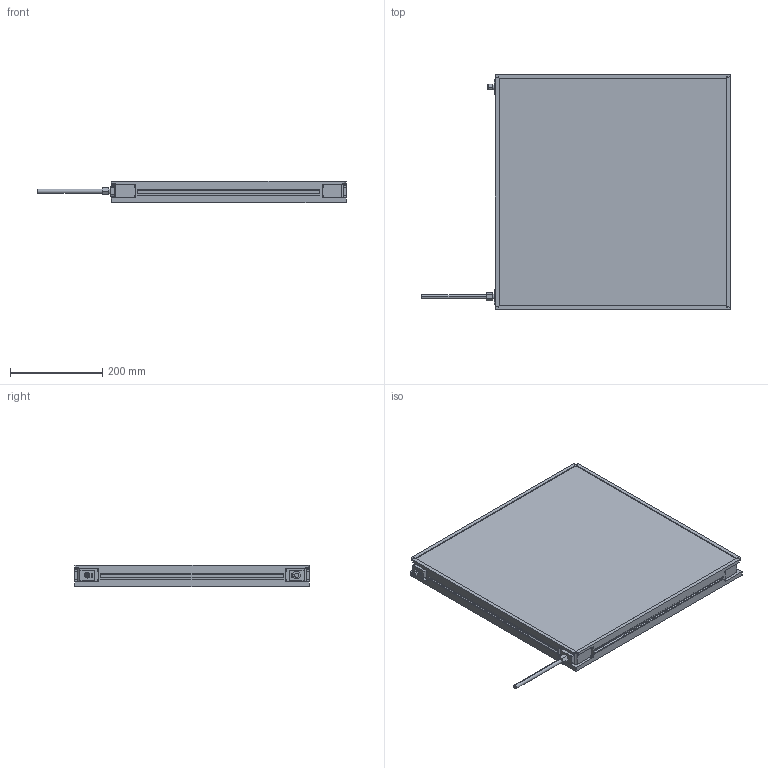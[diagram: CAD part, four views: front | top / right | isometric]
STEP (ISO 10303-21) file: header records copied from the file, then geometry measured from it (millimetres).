
FILE_DESCRIPTION (( 'STEP AP214' ), '1' );
FILE_NAME ('MBACK-xxxx-xxx-M1A2_CLIENT500x500.STEP', '2022-04-01T11:42:58', ( '' ), ( '' ), 'SwSTEP 2.0', 'SolidWorks 2020', '' );
FILE_SCHEMA (( 'AUTOMOTIVE_DESIGN' ));
Length unit declared in the file: millimetre
Products named in the file (1): MBACK-xxxx-xxx-M1A2_CLIENT500x500
Bounding box: 667.4 x 508 x 45.5 mm (x, y, z)
Volume: 10717124.8 mm3; surface area: 656908.6 mm2
Topology: 1 solids, 1 shells, 470 faces, 1210 edges, 804 vertices
Faces by surface type: plane 265, cylinder 117, bspline 80, cone 8
Entity records: 18046 total; most frequent: CARTESIAN_POINT 6837, ORIENTED_EDGE 2420, DIRECTION 2082, EDGE_CURVE 1210, VERTEX_POINT 804, VECTOR 800, LINE 800, AXIS2_PLACEMENT_3D 641
